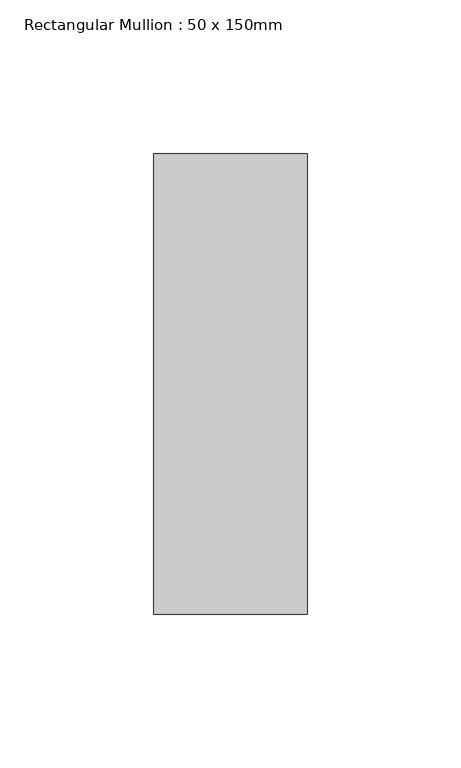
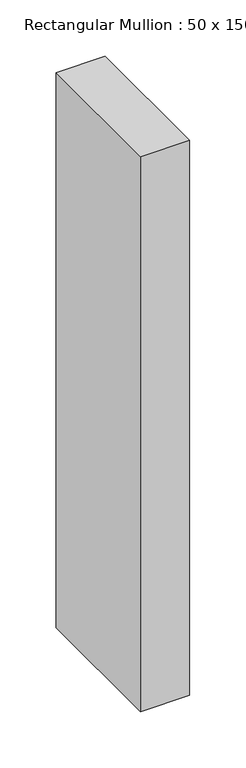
"""IFC4 building model written with IfcOpenShell, lengths in millimetres: member geometry, Rectangular Mullion : 50 x 150mm."""

from ifc_helpers import new_model, si_unit, frame, origin, place, context, project, spatial, polyline, outline, extrude, source, transform, mapped, element, save


def rectangular_mullion_50_x_150mm_4b768477(model_context):
    return source(origin(), model_context, "Body", "SweptSolid", [
        extrude(outline(polyline([(25.0, 75.0), (25.0, -75.0), (-25.0, -75.0), (-25.0, 75.0), (25.0, 75.0)])), frame((0.0, 0.0, -601.145744), z_axis=(0.0, 0.0, 1.0), x_axis=(1.0, 0.0, 0.0)), (0.0, 0.0, 1.0), 601.145744),
    ])


if __name__ == "__main__":
    model = new_model("IFC4")
    model_context = context("Model", 3, world=origin())
    ifc_project = project(units=[si_unit("LENGTHUNIT", "METRE", prefix="MILLI")], contexts=[model_context])
    site = spatial("IfcSite", under=ifc_project)
    building = spatial("IfcBuilding", under=site)
    placement = place(None, origin())
    rectangular_mullion_50_x_150mm_shape = rectangular_mullion_50_x_150mm_4b768477(model_context)
    element("IfcMember", 1, ObjectType="Rectangular Mullion : 50 x 150mm", at=placement, inside=building, context=model_context, shape_type="MappedRepresentation", body=[
        mapped(rectangular_mullion_50_x_150mm_shape, transform((0.0, 0.0, 0.0), x_axis=(1.0, 0.0, 0.0), y_axis=(0.0, 1.0, 0.0), z_axis=(0.0, 0.0, 1.0))),
    ])
    save(model, "model.ifc")
